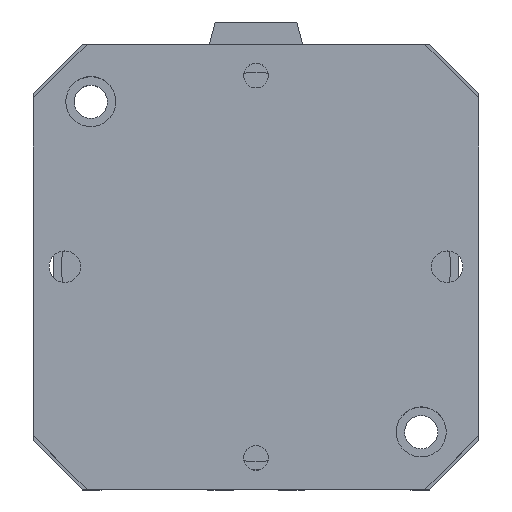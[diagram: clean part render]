
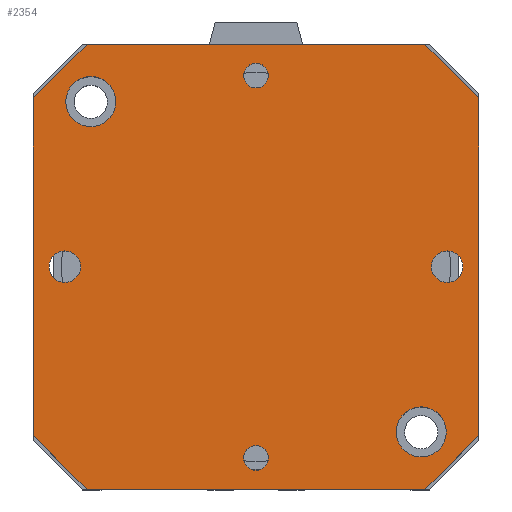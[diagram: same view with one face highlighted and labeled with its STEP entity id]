
A CAD part, top view. The second image highlights one B-rep face of the part: STEP entity #2354.
In plain terms, the highlighted planar face has unit normal (0, 0, 1).
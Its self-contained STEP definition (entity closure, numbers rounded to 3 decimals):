
#221=LINE('',#3869,#429);
#223=LINE('',#3873,#431);
#225=LINE('',#3877,#433);
#227=LINE('',#3881,#435);
#229=LINE('',#3885,#437);
#231=LINE('',#3889,#439);
#233=LINE('',#3893,#441);
#235=LINE('',#3896,#443);
#429=VECTOR('',#3196,91.);
#431=VECTOR('',#3200,20.506);
#433=VECTOR('',#3204,91.);
#435=VECTOR('',#3208,20.506);
#437=VECTOR('',#3212,91.);
#439=VECTOR('',#3216,20.506);
#441=VECTOR('',#3220,91.);
#443=VECTOR('',#3224,20.506);
#537=PLANE('',#2580);
#626=FACE_BOUND('',#956,.T.);
#627=FACE_BOUND('',#957,.T.);
#628=FACE_BOUND('',#958,.T.);
#629=FACE_BOUND('',#959,.T.);
#630=FACE_BOUND('',#960,.T.);
#631=FACE_BOUND('',#961,.T.);
#632=FACE_BOUND('',#962,.T.);
#956=EDGE_LOOP('',(#2134));
#957=EDGE_LOOP('',(#2135));
#958=EDGE_LOOP('',(#2136));
#959=EDGE_LOOP('',(#2137));
#960=EDGE_LOOP('',(#2138));
#961=EDGE_LOOP('',(#2139));
#962=EDGE_LOOP('',(#2140,#2141,#2142,#2143,#2144,#2145,#2146,#2147));
#1035=CIRCLE('',#2536,3.324);
#1037=CIRCLE('',#2539,3.324);
#1042=CIRCLE('',#2547,4.25);
#1046=CIRCLE('',#2554,4.25);
#1055=CIRCLE('',#2569,6.75);
#1056=CIRCLE('',#2571,6.75);
#1235=VERTEX_POINT('',#3787);
#1237=VERTEX_POINT('',#3792);
#1242=VERTEX_POINT('',#3805);
#1246=VERTEX_POINT('',#3816);
#1265=VERTEX_POINT('',#3860);
#1266=VERTEX_POINT('',#3863);
#1267=VERTEX_POINT('',#3866);
#1268=VERTEX_POINT('',#3868);
#1269=VERTEX_POINT('',#3872);
#1270=VERTEX_POINT('',#3876);
#1271=VERTEX_POINT('',#3880);
#1272=VERTEX_POINT('',#3884);
#1273=VERTEX_POINT('',#3888);
#1274=VERTEX_POINT('',#3892);
#1521=EDGE_CURVE('',#1235,#1235,#1035,.T.);
#1523=EDGE_CURVE('',#1237,#1237,#1037,.T.);
#1528=EDGE_CURVE('',#1242,#1242,#1042,.T.);
#1532=EDGE_CURVE('',#1246,#1246,#1046,.T.);
#1551=EDGE_CURVE('',#1265,#1265,#1055,.T.);
#1552=EDGE_CURVE('',#1266,#1266,#1056,.T.);
#1554=EDGE_CURVE('',#1268,#1267,#221,.T.);
#1556=EDGE_CURVE('',#1269,#1268,#223,.T.);
#1558=EDGE_CURVE('',#1270,#1269,#225,.T.);
#1560=EDGE_CURVE('',#1271,#1270,#227,.T.);
#1562=EDGE_CURVE('',#1272,#1271,#229,.T.);
#1564=EDGE_CURVE('',#1273,#1272,#231,.T.);
#1566=EDGE_CURVE('',#1274,#1273,#233,.T.);
#1568=EDGE_CURVE('',#1267,#1274,#235,.T.);
#2134=ORIENTED_EDGE('',*,*,#1521,.T.);
#2135=ORIENTED_EDGE('',*,*,#1523,.T.);
#2136=ORIENTED_EDGE('',*,*,#1528,.T.);
#2137=ORIENTED_EDGE('',*,*,#1532,.T.);
#2138=ORIENTED_EDGE('',*,*,#1551,.T.);
#2139=ORIENTED_EDGE('',*,*,#1552,.T.);
#2140=ORIENTED_EDGE('',*,*,#1568,.T.);
#2141=ORIENTED_EDGE('',*,*,#1566,.T.);
#2142=ORIENTED_EDGE('',*,*,#1564,.T.);
#2143=ORIENTED_EDGE('',*,*,#1562,.T.);
#2144=ORIENTED_EDGE('',*,*,#1560,.T.);
#2145=ORIENTED_EDGE('',*,*,#1558,.T.);
#2146=ORIENTED_EDGE('',*,*,#1556,.T.);
#2147=ORIENTED_EDGE('',*,*,#1554,.T.);
#2354=ADVANCED_FACE('',(#626,#627,#628,#629,#630,#631,#632),#537,.T.);
#2536=AXIS2_PLACEMENT_3D('',#3788,#3111,#3112);
#2539=AXIS2_PLACEMENT_3D('',#3793,#3117,#3118);
#2547=AXIS2_PLACEMENT_3D('',#3806,#3133,#3134);
#2554=AXIS2_PLACEMENT_3D('',#3817,#3147,#3148);
#2569=AXIS2_PLACEMENT_3D('',#3861,#3187,#3188);
#2571=AXIS2_PLACEMENT_3D('',#3864,#3191,#3192);
#2580=AXIS2_PLACEMENT_3D('',#3897,#3225,#3226);
#3111=DIRECTION('center_axis',(0.,0.,-1.));
#3112=DIRECTION('ref_axis',(1.,0.,0.));
#3117=DIRECTION('center_axis',(0.,0.,-1.));
#3118=DIRECTION('ref_axis',(1.,0.,0.));
#3133=DIRECTION('center_axis',(0.,0.,-1.));
#3134=DIRECTION('ref_axis',(1.,0.,0.));
#3147=DIRECTION('center_axis',(0.,0.,-1.));
#3148=DIRECTION('ref_axis',(1.,0.,0.));
#3187=DIRECTION('center_axis',(0.,0.,-1.));
#3188=DIRECTION('ref_axis',(-1.,0.,0.));
#3191=DIRECTION('center_axis',(0.,0.,-1.));
#3192=DIRECTION('ref_axis',(-1.,0.,0.));
#3196=DIRECTION('',(0.,1.,0.));
#3200=DIRECTION('',(0.707,0.707,0.));
#3204=DIRECTION('',(1.,0.,0.));
#3208=DIRECTION('',(0.707,-0.707,0.));
#3212=DIRECTION('',(0.,-1.,0.));
#3216=DIRECTION('',(-0.707,-0.707,0.));
#3220=DIRECTION('',(-1.,0.,0.));
#3224=DIRECTION('',(-0.707,0.707,0.));
#3225=DIRECTION('center_axis',(0.,0.,1.));
#3226=DIRECTION('ref_axis',(1.,0.,0.));
#3787=CARTESIAN_POINT('',(-54.824,0.,50.75));
#3788=CARTESIAN_POINT('Origin',(-51.5,0.,50.75));
#3792=CARTESIAN_POINT('',(48.177,0.,50.75));
#3793=CARTESIAN_POINT('Origin',(51.5,0.,50.75));
#3805=CARTESIAN_POINT('',(-4.25,51.5,50.75));
#3806=CARTESIAN_POINT('Origin',(0.,51.5,50.75));
#3816=CARTESIAN_POINT('',(-4.25,-51.5,50.75));
#3817=CARTESIAN_POINT('Origin',(0.,-51.5,50.75));
#3860=CARTESIAN_POINT('',(-37.75,-44.5,50.75));
#3861=CARTESIAN_POINT('Origin',(-44.5,-44.5,50.75));
#3863=CARTESIAN_POINT('',(51.25,44.5,50.75));
#3864=CARTESIAN_POINT('Origin',(44.5,44.5,50.75));
#3866=CARTESIAN_POINT('',(60.,45.5,50.75));
#3868=CARTESIAN_POINT('',(60.,-45.5,50.75));
#3869=CARTESIAN_POINT('',(60.,45.5,50.75));
#3872=CARTESIAN_POINT('',(45.5,-60.,50.75));
#3873=CARTESIAN_POINT('',(60.,-45.5,50.75));
#3876=CARTESIAN_POINT('',(-45.5,-60.,50.75));
#3877=CARTESIAN_POINT('',(45.5,-60.,50.75));
#3880=CARTESIAN_POINT('',(-60.,-45.5,50.75));
#3881=CARTESIAN_POINT('',(-45.5,-60.,50.75));
#3884=CARTESIAN_POINT('',(-60.,45.5,50.75));
#3885=CARTESIAN_POINT('',(-60.,-45.5,50.75));
#3888=CARTESIAN_POINT('',(-45.5,60.,50.75));
#3889=CARTESIAN_POINT('',(-60.,45.5,50.75));
#3892=CARTESIAN_POINT('',(45.5,60.,50.75));
#3893=CARTESIAN_POINT('',(-45.5,60.,50.75));
#3896=CARTESIAN_POINT('',(45.5,60.,50.75));
#3897=CARTESIAN_POINT('Origin',(0.,0.,50.75));
